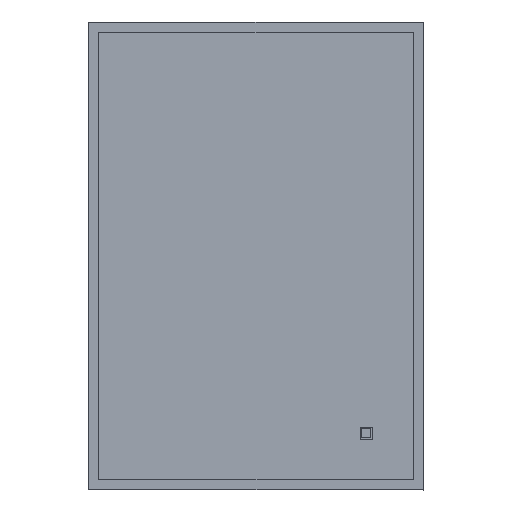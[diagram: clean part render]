
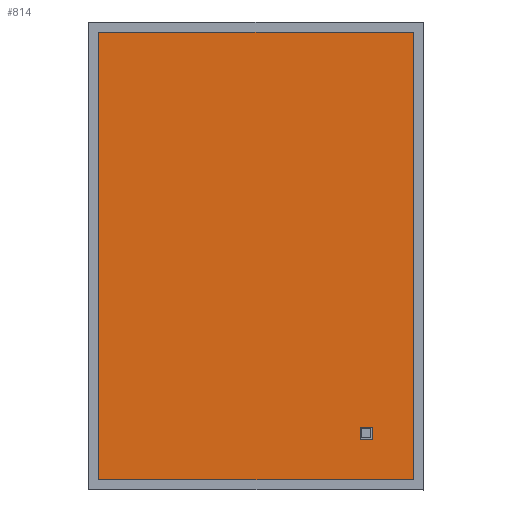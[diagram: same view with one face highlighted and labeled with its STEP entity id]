
A CAD part, top view. The second image highlights one B-rep face of the part: STEP entity #814.
In plain terms, the highlighted planar face has unit normal (0, 0, 1).
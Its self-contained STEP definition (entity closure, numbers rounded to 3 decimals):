
#17=FACE_BOUND('',#112,.T.);
#64=FACE_OUTER_BOUND('',#111,.T.);
#111=EDGE_LOOP('',(#625,#626,#627,#628));
#112=EDGE_LOOP('',(#629,#630,#631,#632));
#162=LINE('',#1138,#270);
#166=LINE('',#1146,#274);
#169=LINE('',#1152,#277);
#172=LINE('',#1157,#280);
#188=LINE('',#1190,#296);
#192=LINE('',#1198,#300);
#195=LINE('',#1204,#303);
#198=LINE('',#1209,#306);
#270=VECTOR('',#924,10.);
#274=VECTOR('',#930,10.);
#277=VECTOR('',#935,10.);
#280=VECTOR('',#940,10.);
#296=VECTOR('',#968,10.);
#300=VECTOR('',#974,10.);
#303=VECTOR('',#979,10.);
#306=VECTOR('',#984,10.);
#376=VERTEX_POINT('',#1136);
#377=VERTEX_POINT('',#1137);
#380=VERTEX_POINT('',#1145);
#382=VERTEX_POINT('',#1151);
#393=VERTEX_POINT('',#1188);
#394=VERTEX_POINT('',#1189);
#397=VERTEX_POINT('',#1197);
#399=VERTEX_POINT('',#1203);
#450=EDGE_CURVE('',#376,#377,#162,.T.);
#454=EDGE_CURVE('',#377,#380,#166,.T.);
#457=EDGE_CURVE('',#380,#382,#169,.T.);
#460=EDGE_CURVE('',#382,#376,#172,.T.);
#476=EDGE_CURVE('',#393,#394,#188,.T.);
#480=EDGE_CURVE('',#397,#393,#192,.T.);
#483=EDGE_CURVE('',#399,#397,#195,.T.);
#486=EDGE_CURVE('',#394,#399,#198,.T.);
#625=ORIENTED_EDGE('',*,*,#450,.T.);
#626=ORIENTED_EDGE('',*,*,#454,.T.);
#627=ORIENTED_EDGE('',*,*,#457,.T.);
#628=ORIENTED_EDGE('',*,*,#460,.T.);
#629=ORIENTED_EDGE('',*,*,#476,.T.);
#630=ORIENTED_EDGE('',*,*,#486,.T.);
#631=ORIENTED_EDGE('',*,*,#483,.T.);
#632=ORIENTED_EDGE('',*,*,#480,.T.);
#770=PLANE('',#866);
#814=ADVANCED_FACE('',(#64,#17),#770,.T.);
#866=AXIS2_PLACEMENT_3D('',#1212,#988,#989);
#924=DIRECTION('',(-1.,0.,0.));
#930=DIRECTION('',(0.,-1.,0.));
#935=DIRECTION('',(1.,0.,0.));
#940=DIRECTION('',(0.,1.,0.));
#968=DIRECTION('',(0.,-1.,0.));
#974=DIRECTION('',(1.,0.,0.));
#979=DIRECTION('',(0.,1.,0.));
#984=DIRECTION('',(-1.,0.,0.));
#988=DIRECTION('center_axis',(0.,0.,
1.));
#989=DIRECTION('ref_axis',(1.,0.,0.));
#1136=CARTESIAN_POINT('',(66.123,614.054,252.249));
#1137=CARTESIAN_POINT('',(-403.877,614.054,252.249));
#1138=CARTESIAN_POINT('',(-286.377,614.054,252.249));
#1145=CARTESIAN_POINT('',(-403.877,-55.946,252.249));
#1146=CARTESIAN_POINT('',(-403.877,111.554,252.249));
#1151=CARTESIAN_POINT('',(66.123,-55.946,252.249));
#1152=CARTESIAN_POINT('',(-51.377,-55.946,252.249));
#1157=CARTESIAN_POINT('',(66.123,446.554,252.249));
#1188=CARTESIAN_POINT('',(5.123,23.054,252.249));
#1189=CARTESIAN_POINT('',(5.123,5.054,252.249));
#1190=CARTESIAN_POINT('',(5.123,151.054,252.249));
#1197=CARTESIAN_POINT('',(-12.877,23.054,252.249));
#1198=CARTESIAN_POINT('',(-90.877,23.054,252.249));
#1203=CARTESIAN_POINT('',(-12.877,5.054,252.249));
#1204=CARTESIAN_POINT('',(-12.877,142.054,252.249));
#1209=CARTESIAN_POINT('',(-81.877,5.054,252.249));
#1212=CARTESIAN_POINT('Origin',(-168.877,279.054,252.249));
